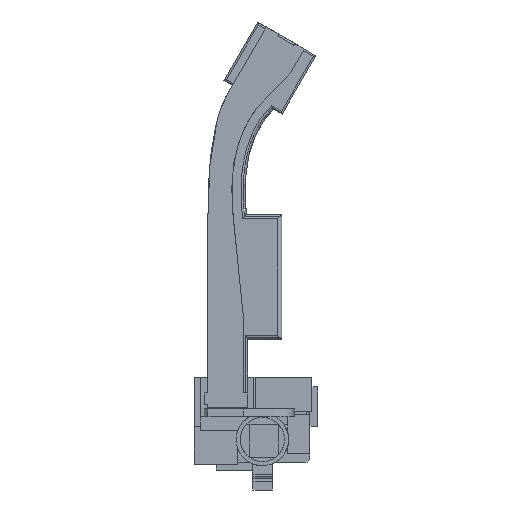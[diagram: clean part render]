
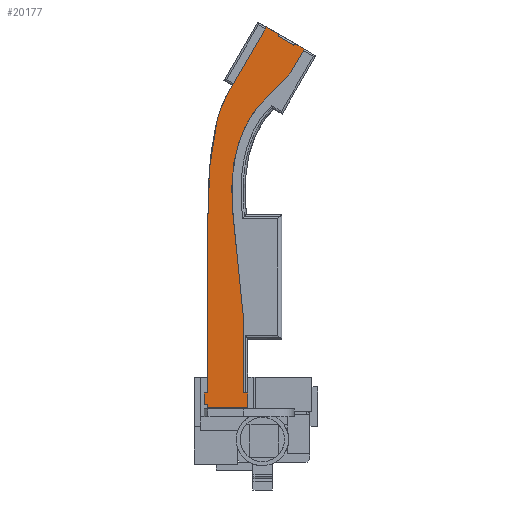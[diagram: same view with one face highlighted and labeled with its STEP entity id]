
A CAD part, left-side view. The second image highlights one B-rep face of the part: STEP entity #20177.
In plain terms, the highlighted planar face has unit normal (-1, 0, 0).
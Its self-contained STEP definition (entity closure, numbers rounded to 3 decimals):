
#2427=LINE('',#30935,#4397);
#2451=LINE('',#31013,#4421);
#2458=LINE('',#31026,#4428);
#2460=LINE('',#31034,#4430);
#2461=LINE('',#31037,#4431);
#2465=LINE('',#31044,#4435);
#2469=LINE('',#31230,#4439);
#2471=LINE('',#31294,#4441);
#2475=LINE('',#31302,#4445);
#2481=LINE('',#31325,#4451);
#2482=LINE('',#31334,#4452);
#2483=LINE('',#31336,#4453);
#2484=LINE('',#31337,#4454);
#2485=LINE('',#31339,#4455);
#2486=LINE('',#31340,#4456);
#2487=LINE('',#31341,#4457);
#4397=VECTOR('',#23353,10.);
#4421=VECTOR('',#23389,10.);
#4428=VECTOR('',#23398,10.);
#4430=VECTOR('',#23408,10.);
#4431=VECTOR('',#23411,10.);
#4435=VECTOR('',#23415,10.);
#4439=VECTOR('',#23443,10.);
#4441=VECTOR('',#23447,10.);
#4445=VECTOR('',#23453,10.);
#4451=VECTOR('',#23463,10.);
#4452=VECTOR('',#23466,10.);
#4453=VECTOR('',#23467,10.);
#4454=VECTOR('',#23468,10.);
#4455=VECTOR('',#23469,10.);
#4456=VECTOR('',#23470,10.);
#4457=VECTOR('',#23471,10.);
#5800=PLANE('',#21270);
#6626=FACE_OUTER_BOUND('',#7763,.T.);
#7763=EDGE_LOOP('',(#16295,#16296,#16297,#16298,#16299,#16300,#16301,#16302,
#16303,#16304,#16305,#16306,#16307,#16308,#16309,#16310,#16311,#16312));
#8486=B_SPLINE_CURVE_WITH_KNOTS('',3,(#31277,#31278,#31279,#31280,#31281,
#31282,#31283,#31284,#31285,#31286,#31287,#31288,#31289,#31290,#31291,#31292),
 .UNSPECIFIED.,.F.,.F.,(4,3,3,3,3,4),(0.,17.999,31.354,
42.3,42.514,51.592),.UNSPECIFIED.);
#8488=B_SPLINE_CURVE_WITH_KNOTS('',3,(#31327,#31328,#31329,#31330,#31331,
#31332),.UNSPECIFIED.,.F.,.F.,(4,2,4),(-6.374,-3.596,
0.),.UNSPECIFIED.);
#9355=VERTEX_POINT('',#30931);
#9357=VERTEX_POINT('',#30934);
#9382=VERTEX_POINT('',#31010);
#9383=VERTEX_POINT('',#31012);
#9387=VERTEX_POINT('',#31022);
#9388=VERTEX_POINT('',#31024);
#9389=VERTEX_POINT('',#31028);
#9390=VERTEX_POINT('',#31030);
#9391=VERTEX_POINT('',#31036);
#9394=VERTEX_POINT('',#31042);
#9399=VERTEX_POINT('',#31222);
#9400=VERTEX_POINT('',#31229);
#9401=VERTEX_POINT('',#31270);
#9404=VERTEX_POINT('',#31300);
#9409=VERTEX_POINT('',#31323);
#9410=VERTEX_POINT('',#31333);
#9411=VERTEX_POINT('',#31335);
#9412=VERTEX_POINT('',#31338);
#11817=EDGE_CURVE('',#9355,#9357,#2427,.T.);
#11845=EDGE_CURVE('',#9383,#9382,#2451,.T.);
#11852=EDGE_CURVE('',#9387,#9388,#2458,.T.);
#11856=EDGE_CURVE('',#9355,#9389,#2460,.T.);
#11857=EDGE_CURVE('',#9391,#9390,#2461,.T.);
#11861=EDGE_CURVE('',#9389,#9394,#2465,.T.);
#11876=EDGE_CURVE('',#9400,#9399,#2469,.T.);
#11879=EDGE_CURVE('',#9399,#9401,#8486,.T.);
#11880=EDGE_CURVE('',#9401,#9391,#2471,.T.);
#11884=EDGE_CURVE('',#9394,#9404,#2475,.T.);
#11891=EDGE_CURVE('',#9388,#9409,#2481,.T.);
#11892=EDGE_CURVE('',#9404,#9383,#8488,.T.);
#11893=EDGE_CURVE('',#9382,#9410,#2482,.T.);
#11894=EDGE_CURVE('',#9410,#9411,#2483,.T.);
#11895=EDGE_CURVE('',#9411,#9387,#2484,.T.);
#11896=EDGE_CURVE('',#9409,#9412,#2485,.T.);
#11897=EDGE_CURVE('',#9412,#9400,#2486,.T.);
#11898=EDGE_CURVE('',#9390,#9357,#2487,.T.);
#16295=ORIENTED_EDGE('',*,*,#11884,.T.);
#16296=ORIENTED_EDGE('',*,*,#11892,.T.);
#16297=ORIENTED_EDGE('',*,*,#11845,.T.);
#16298=ORIENTED_EDGE('',*,*,#11893,.T.);
#16299=ORIENTED_EDGE('',*,*,#11894,.T.);
#16300=ORIENTED_EDGE('',*,*,#11895,.T.);
#16301=ORIENTED_EDGE('',*,*,#11852,.T.);
#16302=ORIENTED_EDGE('',*,*,#11891,.T.);
#16303=ORIENTED_EDGE('',*,*,#11896,.T.);
#16304=ORIENTED_EDGE('',*,*,#11897,.T.);
#16305=ORIENTED_EDGE('',*,*,#11876,.T.);
#16306=ORIENTED_EDGE('',*,*,#11879,.T.);
#16307=ORIENTED_EDGE('',*,*,#11880,.T.);
#16308=ORIENTED_EDGE('',*,*,#11857,.T.);
#16309=ORIENTED_EDGE('',*,*,#11898,.T.);
#16310=ORIENTED_EDGE('',*,*,#11817,.F.);
#16311=ORIENTED_EDGE('',*,*,#11856,.T.);
#16312=ORIENTED_EDGE('',*,*,#11861,.T.);
#20177=ADVANCED_FACE('',(#6626),#5800,.F.);
#21270=AXIS2_PLACEMENT_3D('',#31326,#23464,#23465);
#23353=DIRECTION('',(0.,-0.865,-0.502));
#23389=DIRECTION('',(0.,0.,-1.));
#23398=DIRECTION('',(0.,0.,-1.));
#23408=DIRECTION('',(0.,-0.502,0.865));
#23411=DIRECTION('',(0.,0.865,0.502));
#23415=DIRECTION('',(0.,0.865,0.502));
#23443=DIRECTION('',(0.,0.,1.));
#23447=DIRECTION('',(0.,-0.502,0.865));
#23453=DIRECTION('',(0.,0.502,-0.865));
#23463=DIRECTION('',(0.,-1.,0.));
#23464=DIRECTION('center_axis',(1.,0.,0.));
#23465=DIRECTION('ref_axis',(0.,1.,0.));
#23466=DIRECTION('',(0.,1.,0.));
#23467=DIRECTION('',(0.,0.,-1.));
#23468=DIRECTION('',(0.,-1.,0.));
#23469=DIRECTION('',(0.,0.,1.));
#23470=DIRECTION('',(0.,1.,0.));
#23471=DIRECTION('',(0.,0.502,-0.865));
#30931=CARTESIAN_POINT('',(-77.,-28.937,192.137));
#30934=CARTESIAN_POINT('',(-77.,-36.72,187.618));
#30935=CARTESIAN_POINT('',(-77.,-40.124,185.641));
#31010=CARTESIAN_POINT('',(-77.,6.5,12.));
#31012=CARTESIAN_POINT('',(-77.,6.5,102.));
#31013=CARTESIAN_POINT('',(-77.,6.5,52.819));
#31022=CARTESIAN_POINT('',(-77.,6.5,6.));
#31024=CARTESIAN_POINT('',(-77.,6.5,4.5));
#31026=CARTESIAN_POINT('',(-77.,6.5,52.819));
#31028=CARTESIAN_POINT('',(-77.,-29.439,193.002));
#31030=CARTESIAN_POINT('',(-77.,-37.222,188.483));
#31034=CARTESIAN_POINT('',(-77.,-8.51,156.954));
#31036=CARTESIAN_POINT('',(-77.,-42.18,185.604));
#31037=CARTESIAN_POINT('',(-77.,-40.627,186.506));
#31042=CARTESIAN_POINT('',(-77.,-22.953,196.767));
#31044=CARTESIAN_POINT('',(-77.,-40.627,186.506));
#31222=CARTESIAN_POINT('',(-77.,-11.5,48.856));
#31229=CARTESIAN_POINT('',(-77.,-11.5,12.));
#31230=CARTESIAN_POINT('',(-77.,-11.5,101.819));
#31270=CARTESIAN_POINT('',(-77.,-34.877,173.026));
#31277=CARTESIAN_POINT('Ctrl Pts',(-77.,-11.5,48.856));
#31278=CARTESIAN_POINT('Ctrl Pts',(-77.,-9.721,66.346));
#31279=CARTESIAN_POINT('Ctrl Pts',(-77.,-7.941,83.836));
#31280=CARTESIAN_POINT('Ctrl Pts',(-77.,-6.162,101.327));
#31281=CARTESIAN_POINT('Ctrl Pts',(-77.,-4.776,114.946));
#31282=CARTESIAN_POINT('Ctrl Pts',(-77.,-5.533,127.007));
#31283=CARTESIAN_POINT('Ctrl Pts',(-77.,-8.725,137.484));
#31284=CARTESIAN_POINT('Ctrl Pts',(-77.,-11.342,146.071));
#31285=CARTESIAN_POINT('Ctrl Pts',(-77.,-15.644,153.576));
#31286=CARTESIAN_POINT('Ctrl Pts',(-77.,-21.572,159.651));
#31287=CARTESIAN_POINT('Ctrl Pts',(-77.,-21.688,159.77));
#31288=CARTESIAN_POINT('Ctrl Pts',(-77.,-21.805,159.888));
#31289=CARTESIAN_POINT('Ctrl Pts',(-77.,-21.921,160.005));
#31290=CARTESIAN_POINT('Ctrl Pts',(-77.,-26.24,164.345));
#31291=CARTESIAN_POINT('Ctrl Pts',(-77.,-30.559,168.686));
#31292=CARTESIAN_POINT('Ctrl Pts',(-77.,-34.877,173.026));
#31294=CARTESIAN_POINT('',(-77.,-21.251,149.556));
#31300=CARTESIAN_POINT('',(-77.,-3.401,163.092));
#31302=CARTESIAN_POINT('',(-77.,6.512,146.018));
#31323=CARTESIAN_POINT('',(-77.,-13.5,4.5));
#31325=CARTESIAN_POINT('',(-77.,-17.133,4.5));
#31326=CARTESIAN_POINT('Origin',(-77.,-20.766,101.639));
#31327=CARTESIAN_POINT('Ctrl Pts',(-77.,-3.401,163.092));
#31328=CARTESIAN_POINT('Ctrl Pts',(-77.,0.214,156.865));
#31329=CARTESIAN_POINT('Ctrl Pts',(-77.,2.537,148.47));
#31330=CARTESIAN_POINT('Ctrl Pts',(-77.,5.95,127.413));
#31331=CARTESIAN_POINT('Ctrl Pts',(-77.,6.5,113.986));
#31332=CARTESIAN_POINT('Ctrl Pts',(-77.,6.5,102.));
#31333=CARTESIAN_POINT('',(-77.,8.5,12.));
#31334=CARTESIAN_POINT('',(-77.,6.5,12.));
#31335=CARTESIAN_POINT('',(-77.,8.5,6.));
#31336=CARTESIAN_POINT('',(-77.,8.5,6.));
#31337=CARTESIAN_POINT('',(-77.,6.5,6.));
#31338=CARTESIAN_POINT('',(-77.,-13.5,12.));
#31339=CARTESIAN_POINT('',(-77.,-13.5,70.319));
#31340=CARTESIAN_POINT('',(-77.,-30.779,12.));
#31341=CARTESIAN_POINT('',(-77.,-16.042,152.002));
